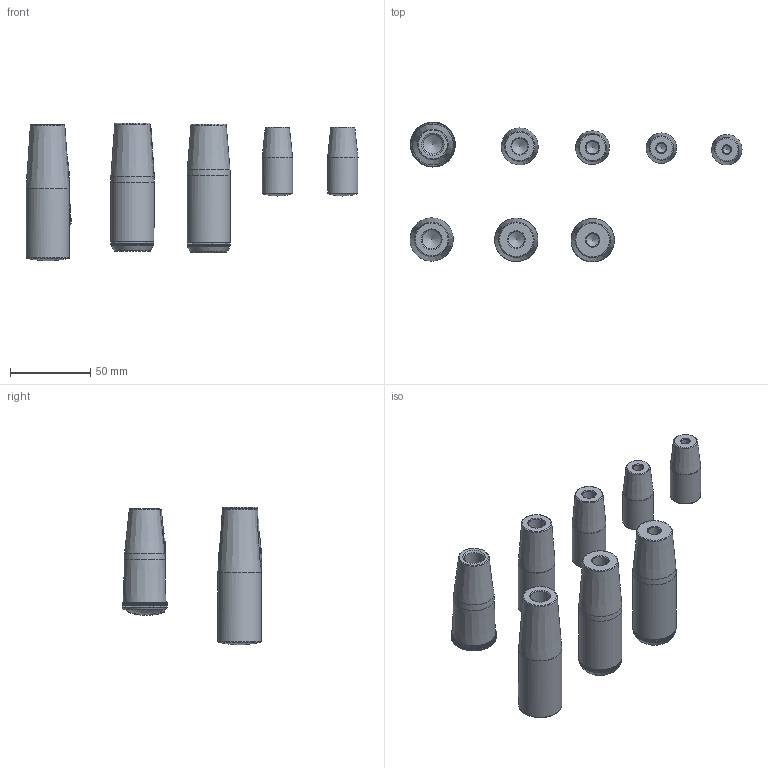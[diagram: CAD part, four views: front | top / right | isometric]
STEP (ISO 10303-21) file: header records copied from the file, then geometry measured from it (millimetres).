
FILE_DESCRIPTION(/* description */ (''),/* implementation_level */ '2;1');
FILE_NAME(/* name */ '\\NAS\db20\XOG_M\DR_XOG_M.stp',/* time_stamp */ '2019-01-04T17:39:05+09:00',/* author */ ('user'),/* organization */ (''),/* preprocessor_version */ 'ST-DEVELOPER v15.6',/* originating_system */ 'Autodesk Inventor 2015',/* authorisation */ '');
FILE_SCHEMA (('AUTOMOTIVE_DESIGN { 1 0 10303 214 3 1 1 }'));
Length unit declared in the file: millimetre
Products named in the file (9): DR_XOG5-43; DR_XOG6-43; DR_XOG8-51; DR_XOG10-66; DR_XOG10-80; DR_XOG12-66; DR_XOG12-85; DR_XOG8-80; DR_XOG_M
Bounding box: 207.21 x 87.18 x 85.75 mm (x, y, z)
Volume: 211212.3 mm3; surface area: 47008.7 mm2
Topology: 8 solids, 8 shells, 1118 faces, 2990 edges, 1885 vertices
Faces by surface type: plane 704, cylinder 356, cone 26, torus 16, bspline 15, sphere 1
Full cylindrical faces by diameter (mm): 5 x1, 6 x1, 8 x2, 10 x2, 12 x2, 19 x2, 21 x1, 23 x1, 27 x3
Entity records: 38408 total; most frequent: CARTESIAN_POINT 10031, DIRECTION 6246, ORIENTED_EDGE 5832, EDGE_CURVE 2916, AXIS2_PLACEMENT_3D 2440, VERTEX_POINT 1873, LINE 1366, VECTOR 1366
